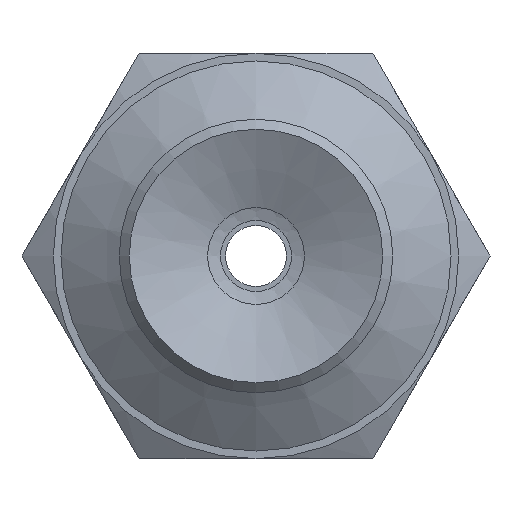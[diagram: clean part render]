
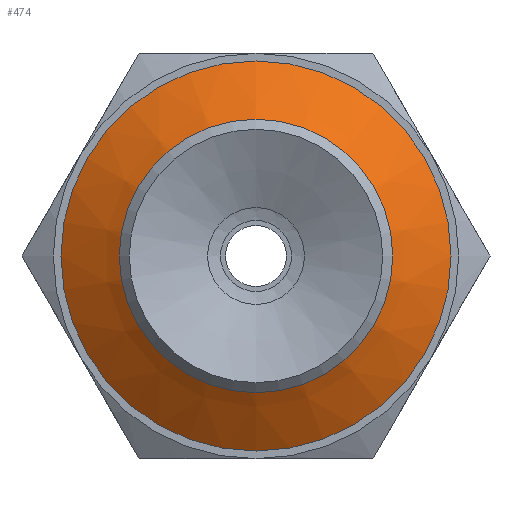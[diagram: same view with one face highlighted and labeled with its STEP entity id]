
A CAD part, front view. The second image highlights one B-rep face of the part: STEP entity #474.
In plain terms, the highlighted conical face has half-angle 55 degrees and reference radius 1.794 mm.
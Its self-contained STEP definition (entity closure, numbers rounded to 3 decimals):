
#474=ADVANCED_FACE('',(#674,#675),#676,.T.);
#674=FACE_BOUND('',#905,.T.);
#675=FACE_OUTER_BOUND('',#906,.T.);
#676=CONICAL_SURFACE('',#907,1.794,0.96);
#905=EDGE_LOOP('',(#1500));
#906=EDGE_LOOP('',(#1501));
#907=AXIS2_PLACEMENT_3D('',#1502,#1503,#1504);
#1500=ORIENTED_EDGE('',*,*,#1720,.T.);
#1501=ORIENTED_EDGE('',*,*,#1717,.T.);
#1502=CARTESIAN_POINT('',(0.0,7.118,0.));
#1503=DIRECTION('',(0.0,1.0,0.));
#1504=DIRECTION('',(0.0,0.,1.0));
#1717=EDGE_CURVE('',#1965,#1965,#1966,.T.);
#1720=EDGE_CURVE('',#1971,#1971,#1972,.T.);
#1965=VERTEX_POINT('',#2531);
#1966=CIRCLE('',#2532,3.85);
#1971=VERTEX_POINT('',#2537);
#1972=CIRCLE('',#2538,2.114);
#2531=CARTESIAN_POINT('',(0.0,8.558,-3.85));
#2532=AXIS2_PLACEMENT_3D('',#2766,#2767,#2768);
#2537=CARTESIAN_POINT('',(0.0,7.342,2.114));
#2538=AXIS2_PLACEMENT_3D('',#2775,#2776,#2777);
#2766=CARTESIAN_POINT('',(0.0,8.558,0.));
#2767=DIRECTION('',(0.0,-1.0,0.));
#2768=DIRECTION('',(0.0,0.,-1.0));
#2775=CARTESIAN_POINT('',(0.0,7.342,0.));
#2776=DIRECTION('',(0.0,1.0,0.));
#2777=DIRECTION('',(0.0,0.,1.0));
